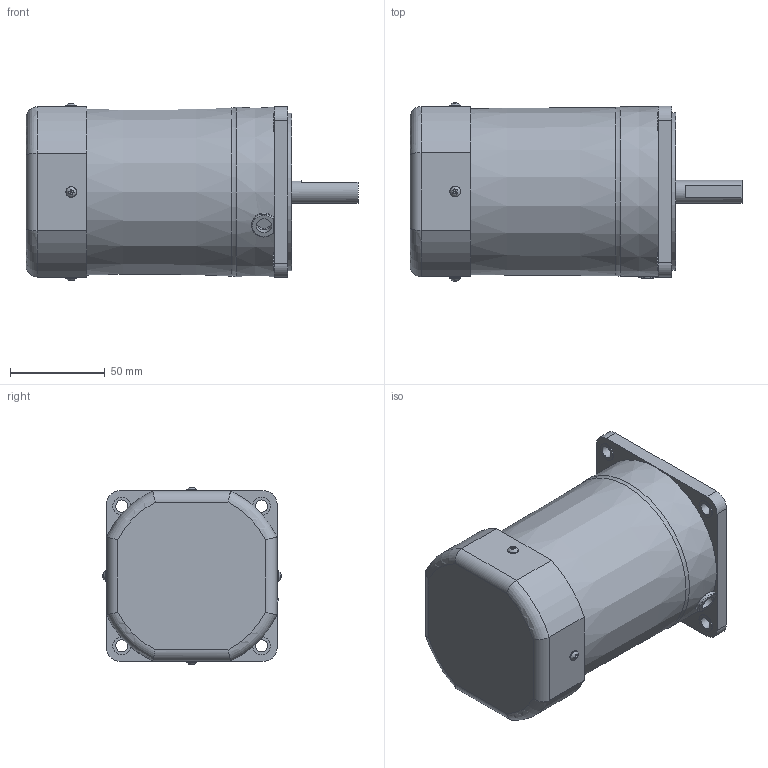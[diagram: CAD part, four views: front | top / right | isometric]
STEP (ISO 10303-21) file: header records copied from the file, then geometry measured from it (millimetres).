
FILE_DESCRIPTION((''),'2;1');
FILE_NAME('D:\STP파일\90W MOTOR\S9I90D.stp','2013-05-20T18:16:14',('leebh'),(''),'Autodesk Inventor 2011','Autodesk Inventor 2011','');
FILE_SCHEMA(('AUTOMOTIVE_DESIGN { 1 0 10303 214 1 1 1 1 }'));
Length unit declared in the file: millimetre
Products named in the file (1): 부품1
Bounding box: 174.8 x 93.94 x 93.51 mm (x, y, z)
Volume: 884167.9 mm3; surface area: 62077.1 mm2
Topology: 1 solids, 3 shells, 182 faces, 436 edges, 282 vertices
Faces by surface type: plane 109, cylinder 49, torus 14, cone 6, bspline 4
Full cylindrical faces by diameter (mm): 3 x4, 3.5 x4, 5.6 x4, 6.5 x4, 8 x1, 9.5 x4, 10 x1, 12 x1, 40 x1, 83 x1
Entity records: 5517 total; most frequent: CARTESIAN_POINT 1423, DIRECTION 794, ORIENTED_EDGE 764, EDGE_CURVE 382, AXIS2_PLACEMENT_3D 294, VERTEX_POINT 273, EDGE_LOOP 261, VECTOR 206
